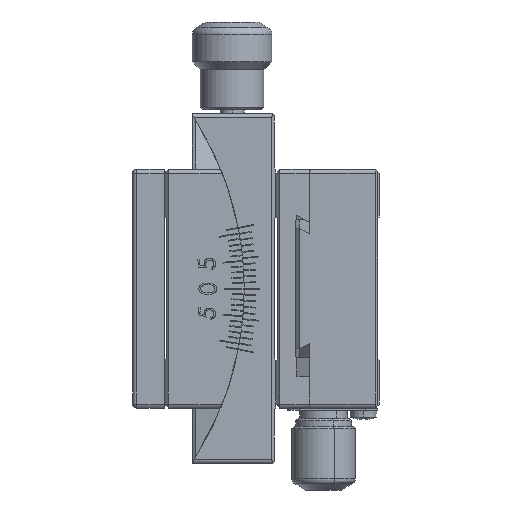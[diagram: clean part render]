
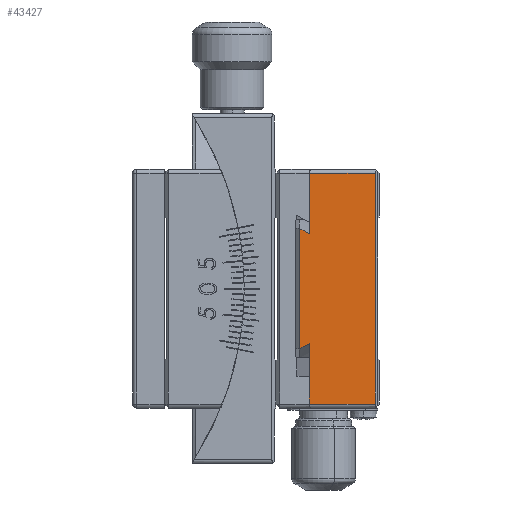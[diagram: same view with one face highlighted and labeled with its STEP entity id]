
A CAD part, left-side view. The second image highlights one B-rep face of the part: STEP entity #43427.
In plain terms, the highlighted planar face has unit normal (-1, 0, 0).
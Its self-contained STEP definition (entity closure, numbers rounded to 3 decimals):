
#270 = VERTEX_POINT ( 'NONE', #47446 ) ;
#500 = ORIENTED_EDGE ( 'NONE', *, *, #38096, .T. ) ;
#820 = DIRECTION ( 'NONE',  ( 0., -1., 0. ) ) ;
#2488 = CARTESIAN_POINT ( 'NONE',  ( -22., -56.5, -14.5 ) ) ;
#2507 = CARTESIAN_POINT ( 'NONE',  ( -22., -47.406, -7.328 ) ) ;
#2812 = DIRECTION ( 'NONE',  ( 0., 0., -1. ) ) ;
#3141 = VECTOR ( 'NONE', #6385, 1000. ) ;
#3851 = CARTESIAN_POINT ( 'NONE',  ( -22., -47., -7.54 ) ) ;
#4490 = EDGE_CURVE ( 'NONE', #5120, #23126, #37960, .T. ) ;
#4671 = B_SPLINE_CURVE_WITH_KNOTS ( 'NONE', 3,
 ( #19276, #2507, #41321, #15550 ),
 .UNSPECIFIED., .F., .F.,
 ( 4, 4 ),
 ( 0.011, 0.013 ),
 .UNSPECIFIED. ) ;
#5120 = VERTEX_POINT ( 'NONE', #6173 ) ;
#6173 = CARTESIAN_POINT ( 'NONE',  ( -22., -48.218, -14.5 ) ) ;
#6275 = VECTOR ( 'NONE', #820, 1000. ) ;
#6385 = DIRECTION ( 'NONE',  ( 0., 0., -1. ) ) ;
#6939 = DIRECTION ( 'NONE',  ( 0., 0., 1. ) ) ;
#7190 = CARTESIAN_POINT ( 'NONE',  ( -22., -48.218, 6.902 ) ) ;
#9302 = CARTESIAN_POINT ( 'NONE',  ( -22., -48.218, 14.5 ) ) ;
#10488 = CARTESIAN_POINT ( 'NONE',  ( -22., -56.5, 14.5 ) ) ;
#11933 = VECTOR ( 'NONE', #6939, 1000. ) ;
#14544 = ORIENTED_EDGE ( 'NONE', *, *, #4490, .T. ) ;
#15550 = CARTESIAN_POINT ( 'NONE',  ( -22., -48.218, -6.902 ) ) ;
#15881 = CARTESIAN_POINT ( 'NONE',  ( -22., -47., 7.54 ) ) ;
#16069 = CARTESIAN_POINT ( 'NONE',  ( -22., -46.5, 15. ) ) ;
#16866 = ORIENTED_EDGE ( 'NONE', *, *, #28005, .T. ) ;
#17549 = CARTESIAN_POINT ( 'NONE',  ( -22., -47., 7.54 ) ) ;
#19276 = CARTESIAN_POINT ( 'NONE',  ( -22., -47., -7.54 ) ) ;
#19765 = EDGE_CURVE ( 'NONE', #37387, #31290, #53804, .T. ) ;
#19901 = LINE ( 'NONE', #41638, #41489 ) ;
#20370 = DIRECTION ( 'NONE',  ( 1., 0., 0. ) ) ;
#21963 = LINE ( 'NONE', #32748, #11933 ) ;
#23126 = VERTEX_POINT ( 'NONE', #2488 ) ;
#24690 = LINE ( 'NONE', #32189, #3141 ) ;
#28005 = EDGE_CURVE ( 'NONE', #36050, #270, #33096, .T. ) ;
#29156 = AXIS2_PLACEMENT_3D ( 'NONE', #16069, #20370, #50483 ) ;
#29641 = LINE ( 'NONE', #43292, #51195 ) ;
#31290 = VERTEX_POINT ( 'NONE', #17549 ) ;
#31824 = EDGE_CURVE ( 'NONE', #31290, #32501, #24690, .T. ) ;
#31896 = EDGE_CURVE ( 'NONE', #23126, #36050, #21963, .T. ) ;
#32189 = CARTESIAN_POINT ( 'NONE',  ( -22., -47., 15. ) ) ;
#32501 = VERTEX_POINT ( 'NONE', #3851 ) ;
#32748 = CARTESIAN_POINT ( 'NONE',  ( -22., -56.5, 15. ) ) ;
#33096 = LINE ( 'NONE', #9302, #43229 ) ;
#35256 = CARTESIAN_POINT ( 'NONE',  ( -22., -46.5, -14.5 ) ) ;
#36030 = FACE_OUTER_BOUND ( 'NONE', #37976, .T. ) ;
#36050 = VERTEX_POINT ( 'NONE', #10488 ) ;
#37307 = CARTESIAN_POINT ( 'NONE',  ( -22., -47.812, 7.115 ) ) ;
#37387 = VERTEX_POINT ( 'NONE', #52362 ) ;
#37960 = LINE ( 'NONE', #35256, #6275 ) ;
#37976 = EDGE_LOOP ( 'NONE', ( #45784, #48433, #500, #55597, #14544, #50185, #16866, #48951 ) ) ;
#38096 = EDGE_CURVE ( 'NONE', #32501, #42764, #4671, .T. ) ;
#38970 = DIRECTION ( 'NONE',  ( 0., 0., -1. ) ) ;
#40593 = CARTESIAN_POINT ( 'NONE',  ( -22., -48.218, -6.902 ) ) ;
#41321 = CARTESIAN_POINT ( 'NONE',  ( -22., -47.812, -7.115 ) ) ;
#41489 = VECTOR ( 'NONE', #2812, 1000. ) ;
#41638 = CARTESIAN_POINT ( 'NONE',  ( -22., -48.218, 0. ) ) ;
#41667 = CARTESIAN_POINT ( 'NONE',  ( -22., -47.406, 7.328 ) ) ;
#41852 = PLANE ( 'NONE',  #29156 ) ;
#42764 = VERTEX_POINT ( 'NONE', #40593 ) ;
#43229 = VECTOR ( 'NONE', #43748, 1000. ) ;
#43292 = CARTESIAN_POINT ( 'NONE',  ( -22., -48.218, 0. ) ) ;
#43427 = ADVANCED_FACE ( 'NONE', ( #36030 ), #41852, .F. ) ;
#43748 = DIRECTION ( 'NONE',  ( 0., 1., 0. ) ) ;
#45784 = ORIENTED_EDGE ( 'NONE', *, *, #19765, .T. ) ;
#47347 = EDGE_CURVE ( 'NONE', #270, #37387, #29641, .T. ) ;
#47446 = CARTESIAN_POINT ( 'NONE',  ( -22., -48.218, 14.5 ) ) ;
#48433 = ORIENTED_EDGE ( 'NONE', *, *, #31824, .T. ) ;
#48951 = ORIENTED_EDGE ( 'NONE', *, *, #47347, .T. ) ;
#50185 = ORIENTED_EDGE ( 'NONE', *, *, #31896, .T. ) ;
#50483 = DIRECTION ( 'NONE',  ( 0., 1., 0. ) ) ;
#50512 = EDGE_CURVE ( 'NONE', #42764, #5120, #19901, .T. ) ;
#51195 = VECTOR ( 'NONE', #38970, 1000. ) ;
#52362 = CARTESIAN_POINT ( 'NONE',  ( -22., -48.218, 6.902 ) ) ;
#53804 = B_SPLINE_CURVE_WITH_KNOTS ( 'NONE', 3,
 ( #7190, #37307, #41667, #15881 ),
 .UNSPECIFIED., .F., .F.,
 ( 4, 4 ),
 ( 0.013, 0.014 ),
 .UNSPECIFIED. ) ;
#55597 = ORIENTED_EDGE ( 'NONE', *, *, #50512, .T. ) ;
